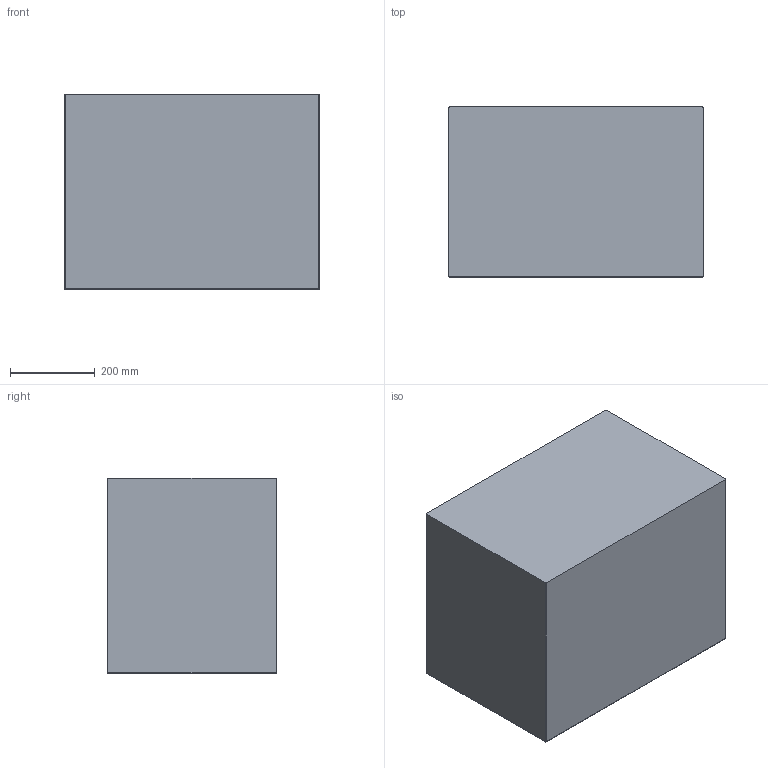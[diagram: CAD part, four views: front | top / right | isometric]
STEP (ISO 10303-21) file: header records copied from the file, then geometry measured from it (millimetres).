
FILE_DESCRIPTION(('CATIA V5 STEP Exchange'),'2;1');
FILE_NAME('C:\Users\Luca\Downloads\mobili next\2063\3D_2063.stp','2023-01-31T14:15:13+00:00',('none'),('none'),'CATIA Version 5 Release 19 SP 5 (IN-10)','CATIA V5 STEP AP214','none');
FILE_SCHEMA(('AUTOMOTIVE_DESIGN { 1 0 10303 214 1 1 1 1 }'));
Length unit declared in the file: millimetre
Products named in the file (1): ART. 2063
Bounding box: 600 x 400 x 460 mm (x, y, z)
Volume: 27938547.1 mm3; surface area: 3099578 mm2
Topology: 3 solids, 3 shells, 181 faces, 410 edges, 214 vertices
Faces by surface type: cylinder 69, plane 42, bspline 38, sphere 28, torus 4
Entity records: 7139 total; most frequent: CARTESIAN_POINT 3710, ORIENTED_EDGE 776, DIRECTION 516, EDGE_CURVE 388, AXIS2_PLACEMENT_3D 247, VERTEX_POINT 214, EDGE_LOOP 182, ADVANCED_FACE 181
